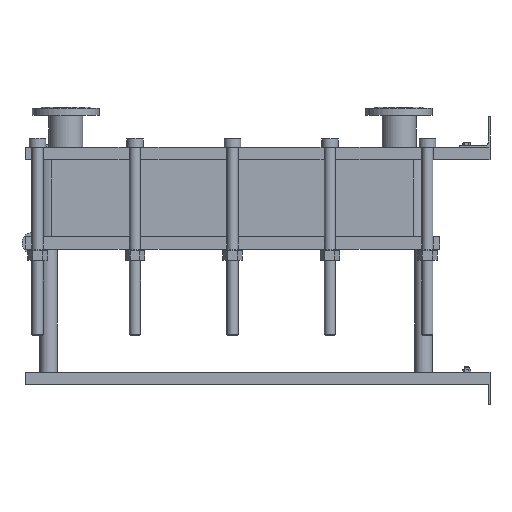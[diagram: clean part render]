
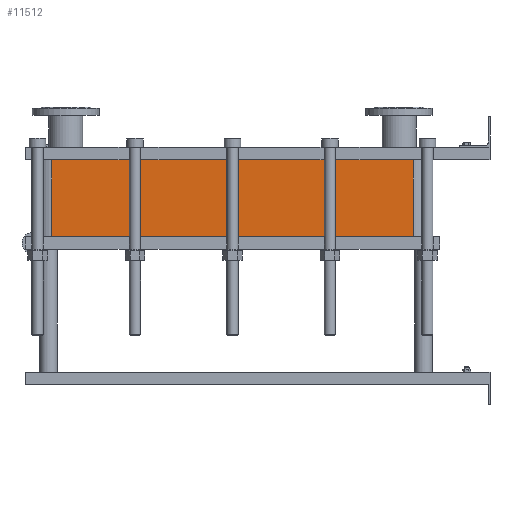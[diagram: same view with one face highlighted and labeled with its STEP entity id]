
A CAD part, left-side view. The second image highlights one B-rep face of the part: STEP entity #11512.
In plain terms, the highlighted planar face has unit normal (-1, 0, 0).
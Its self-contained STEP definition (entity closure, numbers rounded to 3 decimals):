
#1129=LINE('',#23232,#2102);
#1130=LINE('',#23236,#2103);
#1131=LINE('',#23238,#2104);
#1132=LINE('',#23239,#2105);
#2102=VECTOR('',#15887,10.);
#2103=VECTOR('',#15892,10.);
#2104=VECTOR('',#15893,10.);
#2105=VECTOR('',#15894,10.);
#3267=FACE_OUTER_BOUND('',#4093,.T.);
#4093=EDGE_LOOP('',(#10103,#10104,#10105,#10106));
#5642=VERTEX_POINT('',#23229);
#5643=VERTEX_POINT('',#23231);
#5644=VERTEX_POINT('',#23235);
#5645=VERTEX_POINT('',#23237);
#7159=EDGE_CURVE('',#5643,#5642,#1129,.T.);
#7161=EDGE_CURVE('',#5642,#5644,#1130,.T.);
#7162=EDGE_CURVE('',#5645,#5644,#1131,.T.);
#7163=EDGE_CURVE('',#5645,#5643,#1132,.T.);
#10103=ORIENTED_EDGE('',*,*,#7161,.T.);
#10104=ORIENTED_EDGE('',*,*,#7162,.F.);
#10105=ORIENTED_EDGE('',*,*,#7163,.T.);
#10106=ORIENTED_EDGE('',*,*,#7159,.T.);
#10857=PLANE('',#12751);
#11512=ADVANCED_FACE('',(#3267),#10857,.T.);
#12751=AXIS2_PLACEMENT_3D('',#23234,#15890,#15891);
#15887=DIRECTION('',(0.,0.,-1.));
#15890=DIRECTION('center_axis',(-1.,0.,0.));
#15891=DIRECTION('ref_axis',(0.,1.,0.));
#15892=DIRECTION('',(0.,-1.,0.));
#15893=DIRECTION('',(0.,0.,-1.));
#15894=DIRECTION('',(0.,1.,0.));
#23229=CARTESIAN_POINT('',(-200.,1414.,-248.4));
#23231=CARTESIAN_POINT('',(-200.,1414.,0.));
#23232=CARTESIAN_POINT('',(-200.,1414.,0.));
#23234=CARTESIAN_POINT('Origin',(-200.,248.,0.));
#23235=CARTESIAN_POINT('',(-200.,248.,-248.4));
#23236=CARTESIAN_POINT('',(-200.,539.5,-248.4));
#23237=CARTESIAN_POINT('',(-200.,248.,0.));
#23238=CARTESIAN_POINT('',(-200.,248.,0.));
#23239=CARTESIAN_POINT('',(-200.,248.,0.));
